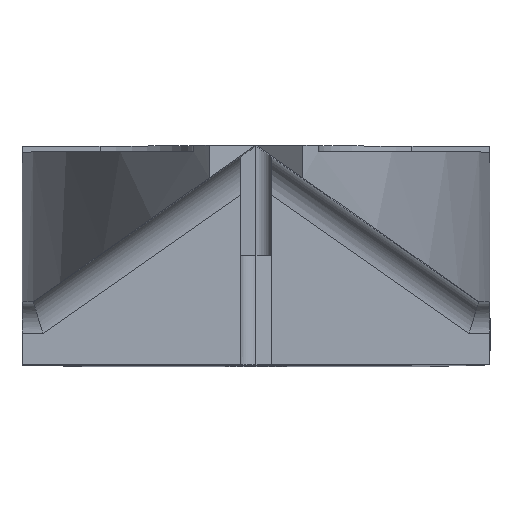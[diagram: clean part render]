
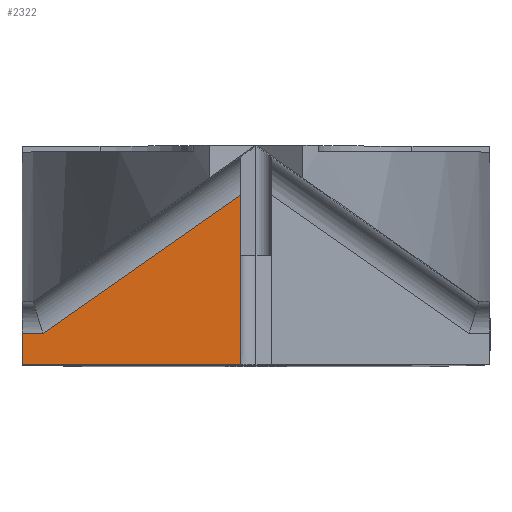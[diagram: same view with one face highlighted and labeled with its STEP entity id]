
A CAD part, top view. The second image highlights one B-rep face of the part: STEP entity #2322.
In plain terms, the highlighted planar face has unit normal (0, 0, 1).
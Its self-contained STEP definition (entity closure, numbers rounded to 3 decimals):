
#173 = VERTEX_POINT ( 'NONE', #2396 ) ;
#213 = EDGE_CURVE ( 'NONE', #173, #973, #1954, .T. ) ;
#264 = LINE ( 'NONE', #2709, #3943 ) ;
#335 = ORIENTED_EDGE ( 'NONE', *, *, #4026, .F. ) ;
#393 = EDGE_CURVE ( 'NONE', #549, #4366, #416, .T. ) ;
#408 = LINE ( 'NONE', #1696, #3859 ) ;
#416 = LINE ( 'NONE', #4343, #1413 ) ;
#549 = VERTEX_POINT ( 'NONE', #2938 ) ;
#662 = EDGE_CURVE ( 'NONE', #3970, #173, #3258, .T. ) ;
#706 = DIRECTION ( 'NONE',  ( 1., 0., 0. ) ) ;
#823 = FACE_OUTER_BOUND ( 'NONE', #1142, .T. ) ;
#973 = VERTEX_POINT ( 'NONE', #3865 ) ;
#976 = DIRECTION ( 'NONE',  ( -0.819, -0.574, 0. ) ) ;
#1142 = EDGE_LOOP ( 'NONE', ( #3860, #335, #1738, #1785, #2193 ) ) ;
#1191 = AXIS2_PLACEMENT_3D ( 'NONE', #1752, #3549, #706 ) ;
#1355 = PLANE ( 'NONE',  #1191 ) ;
#1413 = VECTOR ( 'NONE', #2184, 1000. ) ;
#1662 = EDGE_CURVE ( 'NONE', #973, #4366, #408, .T. ) ;
#1696 = CARTESIAN_POINT ( 'NONE',  ( -7.5, 2.715, 11. ) ) ;
#1738 = ORIENTED_EDGE ( 'NONE', *, *, #662, .T. ) ;
#1752 = CARTESIAN_POINT ( 'NONE',  ( -8.2, -0.543, 11. ) ) ;
#1785 = ORIENTED_EDGE ( 'NONE', *, *, #213, .T. ) ;
#1954 = LINE ( 'NONE', #4112, #2694 ) ;
#2184 = DIRECTION ( 'NONE',  ( -1., 0., 0. ) ) ;
#2193 = ORIENTED_EDGE ( 'NONE', *, *, #1662, .T. ) ;
#2288 = DIRECTION ( 'NONE',  ( 0., -1., 0. ) ) ;
#2322 = ADVANCED_FACE ( 'NONE', ( #823 ), #1355, .T. ) ;
#2396 = CARTESIAN_POINT ( 'NONE',  ( -6.825, 1., 11. ) ) ;
#2456 = VECTOR ( 'NONE', #976, 1000. ) ;
#2694 = VECTOR ( 'NONE', #3186, 1000. ) ;
#2709 = CARTESIAN_POINT ( 'NONE',  ( -0.5, 3.5, 11. ) ) ;
#2938 = CARTESIAN_POINT ( 'NONE',  ( -0.5, 0., 11. ) ) ;
#3020 = CARTESIAN_POINT ( 'NONE',  ( -0.5, 5.429, 11. ) ) ;
#3186 = DIRECTION ( 'NONE',  ( -1., 0., 0. ) ) ;
#3227 = CARTESIAN_POINT ( 'NONE',  ( -7.5, 0., 11. ) ) ;
#3258 = LINE ( 'NONE', #3020, #2456 ) ;
#3549 = DIRECTION ( 'NONE',  ( 0., 0., 1. ) ) ;
#3657 = DIRECTION ( 'NONE',  ( 0., -1., 0. ) ) ;
#3859 = VECTOR ( 'NONE', #2288, 1000. ) ;
#3860 = ORIENTED_EDGE ( 'NONE', *, *, #393, .F. ) ;
#3865 = CARTESIAN_POINT ( 'NONE',  ( -7.5, 1., 11. ) ) ;
#3943 = VECTOR ( 'NONE', #3657, 1000. ) ;
#3970 = VERTEX_POINT ( 'NONE', #4182 ) ;
#4026 = EDGE_CURVE ( 'NONE', #3970, #549, #264, .T. ) ;
#4112 = CARTESIAN_POINT ( 'NONE',  ( -4., 1., 11. ) ) ;
#4182 = CARTESIAN_POINT ( 'NONE',  ( -0.5, 5.429, 11. ) ) ;
#4343 = CARTESIAN_POINT ( 'NONE',  ( 0., 0., 11. ) ) ;
#4366 = VERTEX_POINT ( 'NONE', #3227 ) ;
